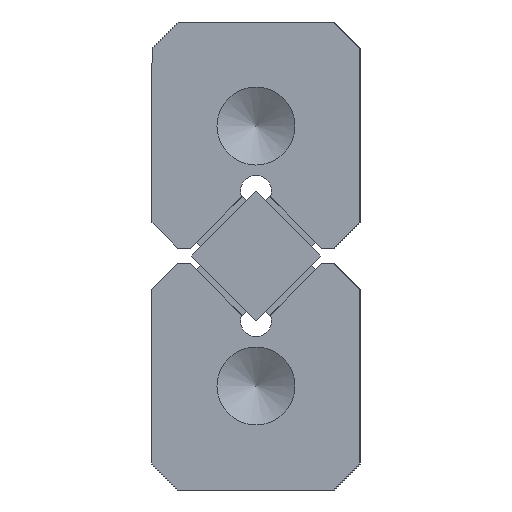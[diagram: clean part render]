
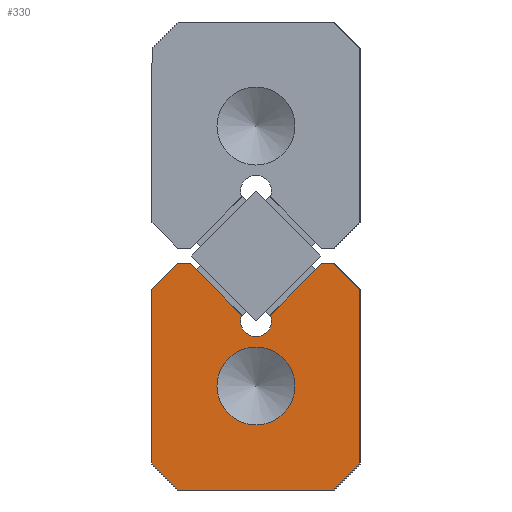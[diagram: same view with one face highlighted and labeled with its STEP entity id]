
A CAD part, left-side view. The second image highlights one B-rep face of the part: STEP entity #330.
In plain terms, the highlighted planar face has unit normal (-1, 0, 0).
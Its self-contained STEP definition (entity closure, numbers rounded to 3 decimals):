
#98=CARTESIAN_POINT('',(0.0,-3.,5.2));
#99=VERTEX_POINT('',#98);
#106=CARTESIAN_POINT('',(0.0,-4.0,4.2));
#107=VERTEX_POINT('',#106);
#108=CARTESIAN_POINT('',(0.0,-3.,5.2));
#109=DIRECTION('',(0.0,-0.707,-0.707));
#110=VECTOR('',#109,1.414);
#111=LINE('',#108,#110);
#112=EDGE_CURVE('',#99,#107,#111,.T.);
#129=CARTESIAN_POINT('',(0.0,-4.0,-2.5));
#130=VERTEX_POINT('',#129);
#131=CARTESIAN_POINT('',(0.0,-4.0,4.2));
#132=DIRECTION('',(0.0,0.0,-1.0));
#133=VECTOR('',#132,6.7);
#134=LINE('',#131,#133);
#135=EDGE_CURVE('',#107,#130,#134,.T.);
#231=CARTESIAN_POINT('',(0.0,0.,0.885));
#232=DIRECTION('',(1.0,0.0,0.0));
#233=DIRECTION('',(0.0,0.0,-1.0));
#234=AXIS2_PLACEMENT_3D('',#231,#232,#233);
#235=PLANE('',#234);
#236=ORIENTED_EDGE('',*,*,#112,.F.);
#237=CARTESIAN_POINT('',(0.0,-2.528,5.2));
#238=VERTEX_POINT('',#237);
#239=CARTESIAN_POINT('',(0.0,-2.528,5.2));
#240=DIRECTION('',(0.0,-1.0,0.0));
#241=VECTOR('',#240,0.472);
#242=LINE('',#239,#241);
#243=EDGE_CURVE('',#238,#99,#242,.T.);
#244=ORIENTED_EDGE('',*,*,#243,.F.);
#245=CARTESIAN_POINT('',(0.0,-0.555,3.227));
#246=VERTEX_POINT('',#245);
#247=CARTESIAN_POINT('',(0.0,-0.555,3.227));
#248=DIRECTION('',(0.0,-0.707,0.707));
#249=VECTOR('',#248,2.79);
#250=LINE('',#247,#249);
#251=EDGE_CURVE('',#246,#238,#250,.T.);
#252=ORIENTED_EDGE('',*,*,#251,.F.);
#253=CARTESIAN_POINT('',(0.0,0.555,3.227));
#254=VERTEX_POINT('',#253);
#255=CARTESIAN_POINT('',(0.0,0.0,3.));
#256=DIRECTION('',(-1.,0.0,0.0));
#257=DIRECTION('',(0.0,0.926,-0.378));
#258=AXIS2_PLACEMENT_3D('',#255,#256,#257);
#259=CIRCLE('',#258,0.6);
#260=EDGE_CURVE('',#254,#246,#259,.T.);
#261=ORIENTED_EDGE('',*,*,#260,.F.);
#262=CARTESIAN_POINT('',(0.0,2.528,5.2));
#263=VERTEX_POINT('',#262);
#264=CARTESIAN_POINT('',(0.0,2.528,5.2));
#265=DIRECTION('',(0.0,-0.707,-0.707));
#266=VECTOR('',#265,2.79);
#267=LINE('',#264,#266);
#268=EDGE_CURVE('',#263,#254,#267,.T.);
#269=ORIENTED_EDGE('',*,*,#268,.F.);
#270=CARTESIAN_POINT('',(0.0,3.,5.2));
#271=VERTEX_POINT('',#270);
#272=CARTESIAN_POINT('',(0.0,3.,5.2));
#273=DIRECTION('',(0.0,-1.0,0.0));
#274=VECTOR('',#273,0.472);
#275=LINE('',#272,#274);
#276=EDGE_CURVE('',#271,#263,#275,.T.);
#277=ORIENTED_EDGE('',*,*,#276,.F.);
#278=CARTESIAN_POINT('',(0.0,4.0,4.2));
#279=VERTEX_POINT('',#278);
#280=CARTESIAN_POINT('',(0.0,4.0,4.2));
#281=DIRECTION('',(0.0,-0.707,0.707));
#282=VECTOR('',#281,1.414);
#283=LINE('',#280,#282);
#284=EDGE_CURVE('',#279,#271,#283,.T.);
#285=ORIENTED_EDGE('',*,*,#284,.F.);
#286=CARTESIAN_POINT('',(0.0,4.0,-2.5));
#287=VERTEX_POINT('',#286);
#288=CARTESIAN_POINT('',(0.0,4.0,-2.5));
#289=DIRECTION('',(0.0,0.0,1.0));
#290=VECTOR('',#289,6.7);
#291=LINE('',#288,#290);
#292=EDGE_CURVE('',#287,#279,#291,.T.);
#293=ORIENTED_EDGE('',*,*,#292,.F.);
#294=CARTESIAN_POINT('',(0.0,3.,-3.5));
#295=VERTEX_POINT('',#294);
#296=CARTESIAN_POINT('',(0.0,3.,-3.5));
#297=DIRECTION('',(0.0,0.707,0.707));
#298=VECTOR('',#297,1.414);
#299=LINE('',#296,#298);
#300=EDGE_CURVE('',#295,#287,#299,.T.);
#301=ORIENTED_EDGE('',*,*,#300,.F.);
#302=CARTESIAN_POINT('',(0.0,-3.,-3.5));
#303=VERTEX_POINT('',#302);
#304=CARTESIAN_POINT('',(0.0,-3.,-3.5));
#305=DIRECTION('',(0.0,1.0,0.0));
#306=VECTOR('',#305,6.);
#307=LINE('',#304,#306);
#308=EDGE_CURVE('',#303,#295,#307,.T.);
#309=ORIENTED_EDGE('',*,*,#308,.F.);
#310=CARTESIAN_POINT('',(0.0,-4.0,-2.5));
#311=DIRECTION('',(0.0,0.707,-0.707));
#312=VECTOR('',#311,1.414);
#313=LINE('',#310,#312);
#314=EDGE_CURVE('',#130,#303,#313,.T.);
#315=ORIENTED_EDGE('',*,*,#314,.F.);
#316=ORIENTED_EDGE('',*,*,#135,.F.);
#317=EDGE_LOOP('',(#236,#244,#252,#261,#269,#277,#285,#293,#301,#309,#315,#316));
#318=FACE_OUTER_BOUND('',#317,.T.);
#319=CARTESIAN_POINT('',(0.0,1.5,0.5));
#320=VERTEX_POINT('',#319);
#321=CARTESIAN_POINT('',(0.0,0.0,0.5));
#322=DIRECTION('',(1.0,0.0,0.0));
#323=DIRECTION('',(0.0,1.0,0.0));
#324=AXIS2_PLACEMENT_3D('',#321,#322,#323);
#325=CIRCLE('',#324,1.5);
#326=EDGE_CURVE('',#320,#320,#325,.T.);
#327=ORIENTED_EDGE('',*,*,#326,.T.);
#328=EDGE_LOOP('',(#327));
#329=FACE_BOUND('',#328,.T.);
#330=ADVANCED_FACE('',(#318,#329),#235,.F.);
